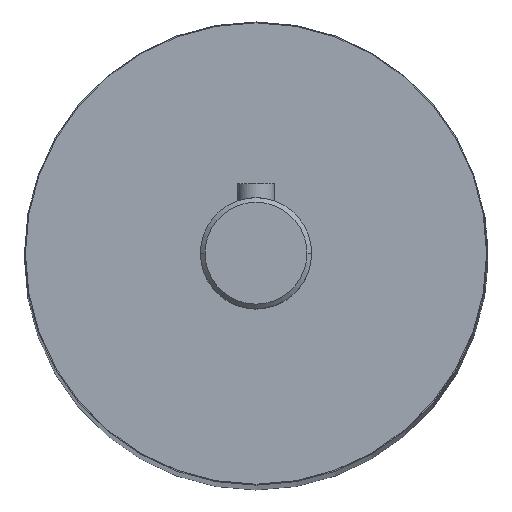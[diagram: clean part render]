
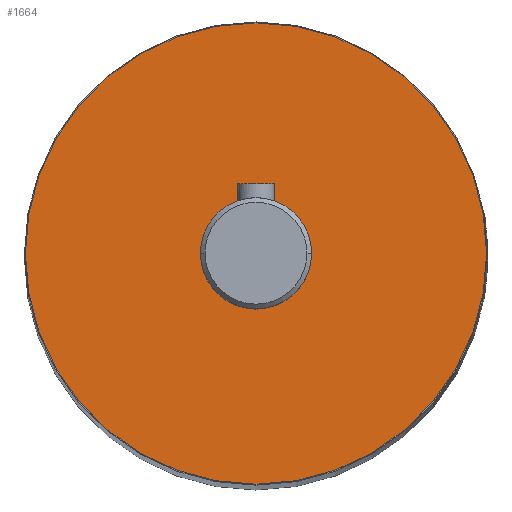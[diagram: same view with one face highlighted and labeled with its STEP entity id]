
A CAD part, top view. The second image highlights one B-rep face of the part: STEP entity #1664.
In plain terms, the highlighted planar face has unit normal (0, 0, 1).
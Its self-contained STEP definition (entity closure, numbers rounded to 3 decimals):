
#12 = AXIS2_PLACEMENT_3D ( 'NONE', #734, #1180, #1600 ) ;
#34 = CARTESIAN_POINT ( 'NONE',  ( 24.9, 0., 152.5 ) ) ;
#113 = CIRCLE ( 'NONE', #1421, 6. ) ;
#234 = ORIENTED_EDGE ( 'NONE', *, *, #1507, .T. ) ;
#249 = FACE_BOUND ( 'NONE', #602, .T. ) ;
#286 = VERTEX_POINT ( 'NONE', #625 ) ;
#320 = DIRECTION ( 'NONE',  ( 1., 0., 0. ) ) ;
#322 = DIRECTION ( 'NONE',  ( 1., 0., 0. ) ) ;
#325 = ORIENTED_EDGE ( 'NONE', *, *, #1613, .T. ) ;
#336 = CARTESIAN_POINT ( 'NONE',  ( 0., 0., 152.5 ) ) ;
#344 = CARTESIAN_POINT ( 'NONE',  ( 0., 0., 152.5 ) ) ;
#447 = DIRECTION ( 'NONE',  ( 0., 0., 1. ) ) ;
#476 = VERTEX_POINT ( 'NONE', #859 ) ;
#482 = DIRECTION ( 'NONE',  ( 1., 0., 0. ) ) ;
#602 = EDGE_LOOP ( 'NONE', ( #904, #1130 ) ) ;
#625 = CARTESIAN_POINT ( 'NONE',  ( -6., 0., 152.5 ) ) ;
#677 = AXIS2_PLACEMENT_3D ( 'NONE', #344, #1505, #322 ) ;
#703 = PLANE ( 'NONE',  #12 ) ;
#734 = CARTESIAN_POINT ( 'NONE',  ( 0., 0., 152.5 ) ) ;
#769 = AXIS2_PLACEMENT_3D ( 'NONE', #924, #1343, #320 ) ;
#859 = CARTESIAN_POINT ( 'NONE',  ( -24.9, 0., 152.5 ) ) ;
#895 = EDGE_LOOP ( 'NONE', ( #234, #325 ) ) ;
#904 = ORIENTED_EDGE ( 'NONE', *, *, #1764, .F. ) ;
#924 = CARTESIAN_POINT ( 'NONE',  ( 0., 0., 152.5 ) ) ;
#1028 = CARTESIAN_POINT ( 'NONE',  ( 6., 0., 152.5 ) ) ;
#1042 = VERTEX_POINT ( 'NONE', #1028 ) ;
#1130 = ORIENTED_EDGE ( 'NONE', *, *, #1571, .F. ) ;
#1146 = CIRCLE ( 'NONE', #769, 6. ) ;
#1180 = DIRECTION ( 'NONE',  ( 0., 0., 1. ) ) ;
#1198 = VERTEX_POINT ( 'NONE', #34 ) ;
#1287 = FACE_OUTER_BOUND ( 'NONE', #895, .T. ) ;
#1343 = DIRECTION ( 'NONE',  ( 0., 0., 1. ) ) ;
#1346 = CARTESIAN_POINT ( 'NONE',  ( 0., 0., 152.5 ) ) ;
#1380 = DIRECTION ( 'NONE',  ( 1., 0., 0. ) ) ;
#1421 = AXIS2_PLACEMENT_3D ( 'NONE', #336, #447, #482 ) ;
#1468 = AXIS2_PLACEMENT_3D ( 'NONE', #1346, #1830, #1380 ) ;
#1505 = DIRECTION ( 'NONE',  ( 0., 0., 1. ) ) ;
#1507 = EDGE_CURVE ( 'NONE', #476, #1198, #1681, .T. ) ;
#1571 = EDGE_CURVE ( 'NONE', #1042, #286, #113, .T. ) ;
#1600 = DIRECTION ( 'NONE',  ( 1., 0., 0. ) ) ;
#1613 = EDGE_CURVE ( 'NONE', #1198, #476, #1779, .T. ) ;
#1664 = ADVANCED_FACE ( 'NONE', ( #249, #1287 ), #703, .T. ) ;
#1681 = CIRCLE ( 'NONE', #1468, 24.9 ) ;
#1764 = EDGE_CURVE ( 'NONE', #286, #1042, #1146, .T. ) ;
#1779 = CIRCLE ( 'NONE', #677, 24.9 ) ;
#1830 = DIRECTION ( 'NONE',  ( 0., 0., 1. ) ) ;
